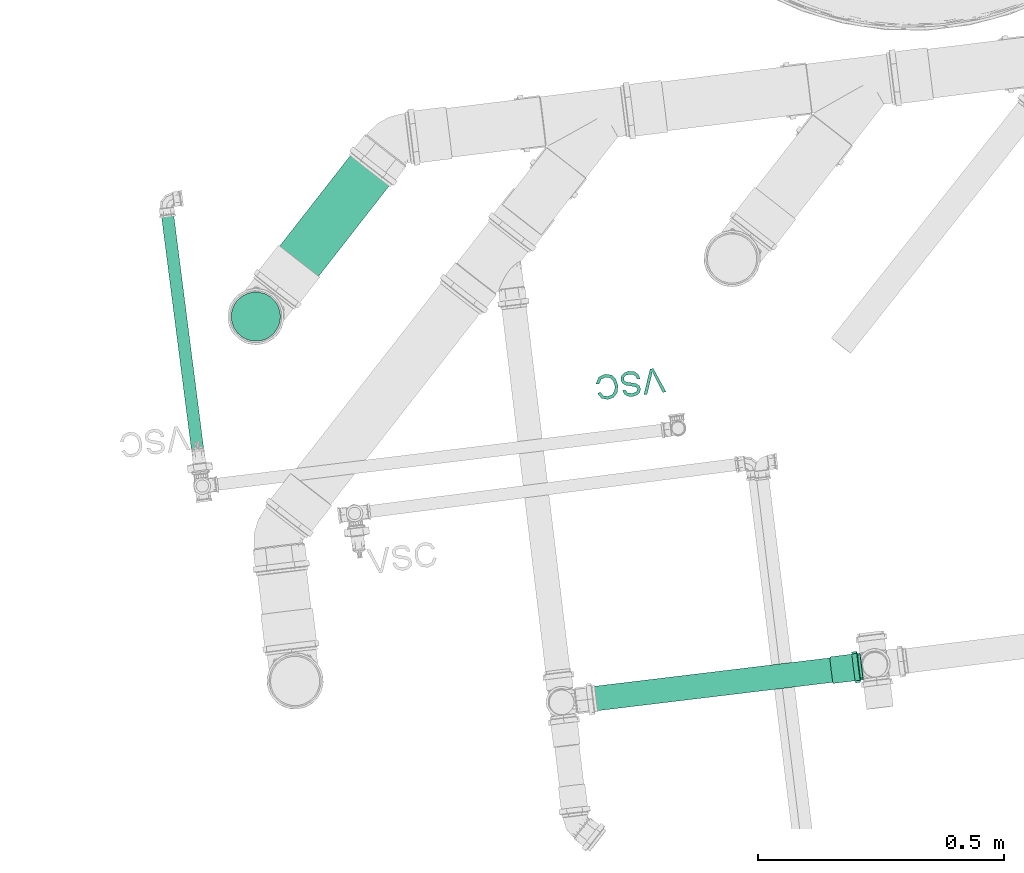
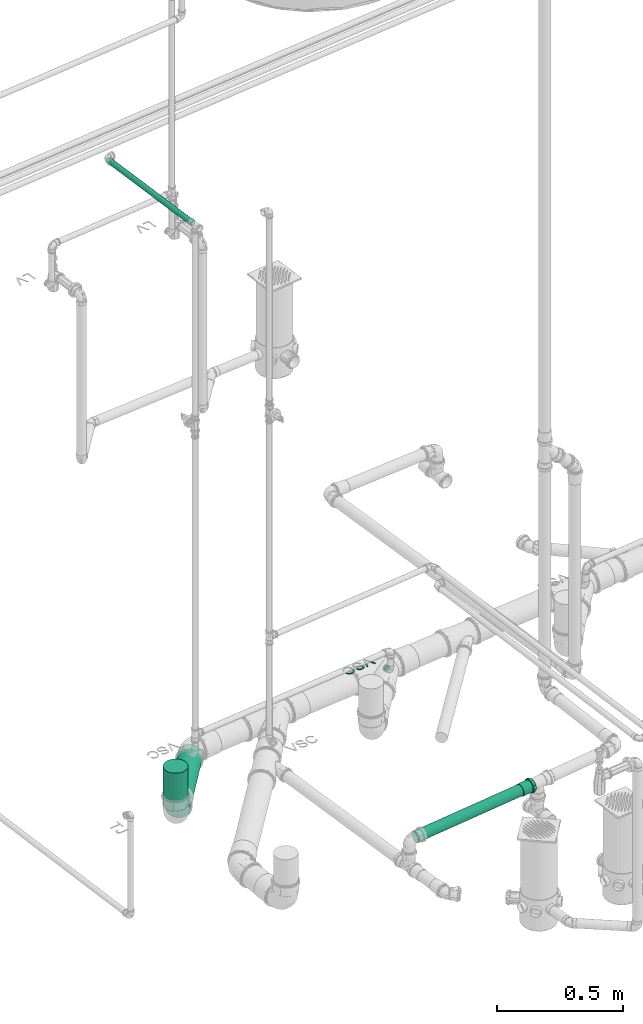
# One storey, part 17 of 97: 4 flow segments, 1 flow fitting, 1 flow terminal.
"""IFC2X3 building model written with IfcOpenShell, lengths in centimetres."""

from ifc_helpers import new_model, entity, si_unit, converted_unit, derived_unit, direction, frame, frame_2d, origin, origin_2d_with_axis, place, context, subcontext, project, spatial, polyline, circle, outline, extrude, faceted_brep, source, transform, mapped, material, material_list, type_object, type_shapes, element, save


model = new_model("IFC2X3")

# Units and contexts
model_context = context("Model", 3, precision=0.001, world=origin(), true_north=direction((6.12303176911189e-17, 1.0)))
body_context = subcontext(model_context, "Body", "Model", "MODEL_VIEW")
ifc_project = project(units=[si_unit("LENGTHUNIT", "METRE", prefix="CENTI"), si_unit("AREAUNIT", "SQUARE_METRE"), si_unit("VOLUMEUNIT", "CUBIC_METRE"), converted_unit("PLANEANGLEUNIT", "DEGREE", entity("IfcRatioMeasure", 0.0174532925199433), si_unit("PLANEANGLEUNIT", "RADIAN"), dimensions=[0, 0, 0, 0, 0, 0, 0]), si_unit("MASSUNIT", "GRAM", prefix="KILO"), derived_unit("MASSDENSITYUNIT", [(si_unit("MASSUNIT", "GRAM", prefix="KILO"), 1), (si_unit("LENGTHUNIT", "METRE"), -3)]), derived_unit("MOMENTOFINERTIAUNIT", [(si_unit("LENGTHUNIT", "METRE"), 4)]), si_unit("TIMEUNIT", "SECOND"), si_unit("FREQUENCYUNIT", "HERTZ"), si_unit("THERMODYNAMICTEMPERATUREUNIT", "DEGREE_CELSIUS"), derived_unit("THERMALTRANSMITTANCEUNIT", [(si_unit("MASSUNIT", "GRAM", prefix="KILO"), 1), (si_unit("THERMODYNAMICTEMPERATUREUNIT", "KELVIN"), -1), (si_unit("TIMEUNIT", "SECOND"), -3)]), derived_unit("VOLUMETRICFLOWRATEUNIT", [(si_unit("LENGTHUNIT", "METRE"), 3), (si_unit("TIMEUNIT", "SECOND"), -1)]), si_unit("ELECTRICCURRENTUNIT", "AMPERE"), si_unit("ELECTRICVOLTAGEUNIT", "VOLT"), si_unit("POWERUNIT", "WATT"), si_unit("FORCEUNIT", "NEWTON", prefix="KILO"), si_unit("ILLUMINANCEUNIT", "LUX"), si_unit("LUMINOUSFLUXUNIT", "LUMEN"), si_unit("LUMINOUSINTENSITYUNIT", "CANDELA"), derived_unit("USERDEFINED", [(si_unit("MASSUNIT", "GRAM", prefix="KILO"), -1), (si_unit("LENGTHUNIT", "METRE"), -2), (si_unit("TIMEUNIT", "SECOND"), 3), (si_unit("LUMINOUSFLUXUNIT", "LUMEN"), 1)]), derived_unit("LINEARVELOCITYUNIT", [(si_unit("LENGTHUNIT", "METRE"), 1), (si_unit("TIMEUNIT", "SECOND"), -1)]), si_unit("PRESSUREUNIT", "PASCAL"), derived_unit("USERDEFINED", [(si_unit("LENGTHUNIT", "METRE"), -2), (si_unit("MASSUNIT", "GRAM", prefix="KILO"), 1), (si_unit("TIMEUNIT", "SECOND"), -2)]), derived_unit("LINEARFORCEUNIT", [(si_unit("MASSUNIT", "GRAM", prefix="KILO"), 1), (si_unit("LENGTHUNIT", "METRE"), 1), (si_unit("TIMEUNIT", "SECOND"), -2), (si_unit("LENGTHUNIT", "METRE"), -1)]), derived_unit("PLANARFORCEUNIT", [(si_unit("MASSUNIT", "GRAM", prefix="KILO"), 1), (si_unit("LENGTHUNIT", "METRE"), 1), (si_unit("TIMEUNIT", "SECOND"), -2), (si_unit("LENGTHUNIT", "METRE"), -2)])], contexts=[model_context])

# Site, building, storey
site_placement = place(None, origin())
site = spatial("IfcSite", under=ifc_project, at=site_placement, Name="Default", CompositionType="ELEMENT")
building_placement = place(site_placement, origin())
building = spatial("IfcBuilding", under=site, at=building_placement, Name="HIDROSSANITÁRIO", CompositionType="ELEMENT")
storey_placement = place(building_placement, frame((0.0, 0.0, -260.0)))
storey = spatial("IfcBuildingStorey", under=building, at=storey_placement, Name="TÉRREO-HID", CompositionType="ELEMENT", Elevation=-260.0)

# Flow segments
pipe_segment_type_1 = type_object("IfcPipeSegmentType", Name="Tipos de tubos:Tubo Marrom - Água Fria - Soldável", PredefinedType="NOTDEFINED")
flow_segment_1_placement = place(storey_placement, origin())
element("IfcFlowSegment", 1, at=flow_segment_1_placement, inside=storey, type_object=pipe_segment_type_1, Name="Tipos de tubos:Tubo Marrom - Água Fria - Soldável", ObjectType="Tipos de tubos:Tubo Marrom - Água Fria - Soldável", context=body_context, shape_type="SweptSolid", body=[
    extrude(circle(Radius=1.25, at=origin_2d_with_axis()), frame((-1806.45183467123, 2940.30794817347, 277.384317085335), z_axis=(0.12718488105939, -0.991879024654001, 8.05067442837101e-05), x_axis=(-0.991879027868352, -0.127184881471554, 0.0)), (0.0, 0.0, 1.0), 55.2225000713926),
])
pipe_segment_type_2 = type_object("IfcPipeSegmentType", Name="Tipos de tubos:Tubo - Esgoto - Série Normal", PredefinedType="NOTDEFINED")
flow_segment_2_placement = place(storey_placement, origin())
element("IfcFlowSegment", 2, at=flow_segment_2_placement, inside=storey, type_object=pipe_segment_type_2, Name="Tipos de tubos:Tubo - Esgoto - Série Normal", ObjectType="Tipos de tubos:Tubo - Esgoto - Série Normal", context=body_context, shape_type="SweptSolid", body=[
    extrude(circle(Radius=5.0, at=frame_2d((0.0, -4.33146851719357e-13), x_axis=(1.0, 0.0))), frame((-1788.36069078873, 2918.3354187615, -28.4339768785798), z_axis=(0.0, 0.0, 1.0), x_axis=(-1.0, 0.0, 0.0)), (0.0, 0.0, 1.0), 18.43397687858),
])
flow_segment_3_placement = place(storey_placement, origin())
element("IfcFlowSegment", 3, at=flow_segment_3_placement, inside=storey, type_object=pipe_segment_type_2, Name="Tipos de tubos:Tubo - Esgoto - Série Normal", ObjectType="Tipos de tubos:Tubo - Esgoto - Série Normal", context=body_context, shape_type="SweptSolid", body=[
    extrude(circle(Radius=5.0, at=frame_2d((-2.66574468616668e-13, 3.46875511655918e-15), x_axis=(1.0, 0.0))), frame((-1784.69712056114, 2923.02733253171, -34.3265962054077), z_axis=(0.615404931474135, 0.788145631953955, 0.0101603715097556), x_axis=(-0.78818631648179, 0.615436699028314, 0.0)), (0.0, 0.0, 1.0), 36.769294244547),
])
flow_segment_4_placement = place(storey_placement, origin())
element("IfcFlowSegment", 4, at=flow_segment_4_placement, inside=storey, type_object=pipe_segment_type_2, Name="Tipos de tubos:Tubo - Esgoto - Série Normal", ObjectType="Tipos de tubos:Tubo - Esgoto - Série Normal", context=body_context, shape_type="SweptSolid", body=[
    extrude(circle(Radius=2.5, at=origin_2d_with_axis()), frame((-1723.26628427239, 2840.38123197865, -19.9761092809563), z_axis=(0.992662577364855, 0.119779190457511, 0.0165515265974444), x_axis=(-0.119795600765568, 0.992798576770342, 0.0)), (0.0, 0.0, 1.0), 58.141141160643),
])

# Flow terminal
ifc_material_1 = material(Name=".ID PONTOS DE CONSUMO")
ifc_material_2 = material(Name="<Unnamed>")
ifc_material_list_1 = material_list([ifc_material_1, ifc_material_2])
ifc_material_list_2 = material_list([ifc_material_1, ifc_material_1, ifc_material_1, ifc_material_2])
distribution_element_type = type_object("IfcDistributionElementType", Name="Pontos de Consumo :BACIA SANITARIA CAIXA ACOPLADA", material=ifc_material_list_2)
shared_shape_1 = source(origin(), body_context, "Body", "SweptSolid", [
    extrude(outline(polyline([(-0.291035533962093, -2.60978212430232), (0.357663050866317, -2.60978212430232), (2.27187569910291, 2.41303338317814), (1.59987792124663, 2.41303338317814), (0.258334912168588, -1.20569917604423), (-0.00899267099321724, -2.02117093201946), (-0.279999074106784, -1.20569917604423), (-1.61786326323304, 2.41303338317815), (-2.28986104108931, 2.41303338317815), (-0.291035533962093, -2.60978212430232)])), frame((-3.80140883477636, 8.38581599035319, 0.0), z_axis=(0.0, 0.0, 1.0), x_axis=(-1.0, 0.0, 0.0)), (0.0, 0.0, 1.0), 0.2),
    extrude(outline(polyline([(0.159986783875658, -2.14384430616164), (1.15649137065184, -2.14384430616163), (1.96068557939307, -1.63393256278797), (2.46863484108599, -0.612133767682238), (2.53870698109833, 0.35501055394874), (2.18730732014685, 1.12715089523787), (1.52572011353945, 1.54795570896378), (0.789276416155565, 1.5528298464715), (0.13430777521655, 1.10651277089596), (-0.471111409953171, 0.123091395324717), (-1.0874076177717, -0.768054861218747), (-1.56068636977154, -0.842013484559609), (-1.9855059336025, -0.428866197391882), (-1.94874467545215, 0.494808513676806), (-1.4949111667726, 1.29806637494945), (-0.777489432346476, 1.46486449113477), (-0.606740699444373, 2.06905231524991), (-1.430854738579, 2.04327069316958), (-2.11718460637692, 1.54911010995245), (-2.55960237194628, 0.64195615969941), (-2.6481064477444, -0.300227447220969), (-2.33838066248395, -1.04848451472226), (-1.71373428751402, -1.45120371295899), (-1.06523029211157, -1.45161416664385), (-0.470393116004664, -1.06476156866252), (0.0951992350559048, -0.201975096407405), (0.574519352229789, 0.612557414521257), (0.964937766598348, 0.945679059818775), (1.37031208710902, 0.9394324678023), (1.73780922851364, 0.690941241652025), (1.92586114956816, 0.197524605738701), (1.85777714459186, -0.464986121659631), (1.50727535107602, -1.14835302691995), (0.990539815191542, -1.51586299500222), (0.330735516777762, -1.5396564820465), (0.159986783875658, -2.14384430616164)])), frame((-8.44107816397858, 8.53201502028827, 0.0), z_axis=(0.0, 0.0, 1.0), x_axis=(-0.271957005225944, 0.9623094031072, 0.0)), (0.0, 0.0, 1.0), 0.2),
    extrude(outline(polyline([(-0.163864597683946, -1.7964904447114), (-0.337097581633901, -2.4213021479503), (1.13156474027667, -2.40853999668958), (2.16562908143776, -1.48721709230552), (2.53219172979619, -0.190439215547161), (2.08718308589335, 0.950570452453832), (1.05509329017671, 1.8489065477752), (-0.275927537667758, 2.27270776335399), (-1.46466906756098, 1.98187536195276), (-2.32904298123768, 1.08731397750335), (-2.61799066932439, -0.197577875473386), (-2.01807585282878, -1.36204183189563), (-1.57497165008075, -0.892746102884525), (-1.98665363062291, -0.0610798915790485), (-1.77280525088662, 0.795082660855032), (-1.04969465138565, 1.51204662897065), (-0.147902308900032, 1.63280778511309), (0.740549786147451, 1.30552643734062), (1.58306630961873, 0.601352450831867), (1.88727594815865, -0.254715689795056), (1.65286235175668, -1.11954933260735), (0.903279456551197, -1.7964904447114), (-0.163864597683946, -1.7964904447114)])), frame((-13.1807089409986, 8.45514997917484, 0.0), z_axis=(0.0, 0.0, -1.0), x_axis=(0.499291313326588, 0.866434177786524, 0.0)), (0.0, 0.0, -1.0), 0.2),
    extrude(circle(Radius=1.25, at=frame_2d((-6.58881963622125e-17, -2.01943071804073e-15), x_axis=(1.0, 0.0))), frame((0.0, 0.0, 0.0), z_axis=(0.0, 1.0, 0.0), x_axis=(1.0, 0.0, 0.0)), (0.0, 0.0, 1.0), 1.0),
])
type_shapes(distribution_element_type, [shared_shape_1])
flow_terminal_placement = place(storey_placement, frame((-1702.8887137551, 2897.30549195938, 20.0), z_axis=(0.0, 0.0, 1.0), x_axis=(0.992511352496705, 0.122152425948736, 0.0)))
element("IfcFlowTerminal", 5, at=flow_terminal_placement, inside=storey, type_object=distribution_element_type, material=ifc_material_list_1, Name="Pontos de Consumo :BACIA SANITARIA CAIXA ACOPLADA", ObjectType="Pontos de Consumo :BACIA SANITARIA CAIXA ACOPLADA", context=body_context, shape_type="MappedRepresentation", body=[
    mapped(shared_shape_1, transform((0.0, 0.0, 0.0), scale=1.0)),
])

# Flow fitting
ifc_material_3 = material(Name="PVC Branco")
pipe_fitting_type = type_object("IfcPipeFittingType", Name="Luva Simples para Conexão - Serie Normal - Esgoto - MEP - Tigre:Standard", PredefinedType="NOTDEFINED", material=ifc_material_3)
shared_shape_2 = source(origin(), body_context, "Body", "Brep", [
    faceted_brep([(1.65999999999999, 1.59, -2.75396078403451), (1.65999999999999, 2.24859956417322, -2.24859956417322), (1.65999999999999, 1.35999999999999, -2.35558909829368), (1.65999999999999, 0.703987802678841, -2.62731824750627), (1.65999999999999, 0.82304456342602, -3.07164412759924), (1.65999999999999, 1.9233304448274, -1.92333044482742), (1.65999999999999, 2.75396078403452, -1.59), (1.65999999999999, 2.35558909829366, -1.36000000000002), (1.65999999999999, 2.62731824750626, -0.703987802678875), (1.65999999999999, 3.07164412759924, -0.823044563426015), (1.65999999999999, 2.72, 0.0), (1.65999999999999, 3.18, 0.0), (1.65999999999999, 2.62731824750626, 0.703987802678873), (1.65999999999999, 3.07164412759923, 0.823044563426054), (1.65999999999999, 2.35558909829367, 1.36000000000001), (1.65999999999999, 2.7539607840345, 1.59000000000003), (1.65999999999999, 1.9233304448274, 1.92333044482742), (1.65999999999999, 2.24859956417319, 2.24859956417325), (1.65999999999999, 1.35999999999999, 2.35558909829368), (1.65999999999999, 1.58999999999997, 2.75396078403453), (1.65999999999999, 0.703987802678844, 2.62731824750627), (1.65999999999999, 0.823044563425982, 3.07164412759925), (1.65999999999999, 0.0, 2.72), (1.65999999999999, 0.0, 3.18), (1.65999999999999, -0.703987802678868, 2.62731824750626), (1.65999999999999, -0.823044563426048, 3.07164412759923), (1.65999999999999, -1.36000000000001, 2.35558909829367), (1.65999999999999, -1.59000000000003, 2.7539607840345), (1.65999999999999, -1.92333044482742, 1.9233304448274), (1.65999999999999, -2.24859956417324, 2.2485995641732), (1.65999999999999, -2.35558909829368, 1.35999999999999), (1.65999999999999, -2.75396078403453, 1.58999999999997), (1.65999999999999, -3.07164412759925, 0.823044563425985), (1.65999999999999, -2.62731824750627, 0.703987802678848), (1.65999999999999, -3.18, 0.0), (1.65999999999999, -2.72, 0.0), (1.65999999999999, -3.07164412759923, -0.823044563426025), (1.65999999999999, -2.62731824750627, -0.703987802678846), (1.65999999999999, -2.75396078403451, -1.59000000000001), (1.65999999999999, -2.35558909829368, -1.35999999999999), (1.65999999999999, -2.24859956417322, -2.24859956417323), (1.65999999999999, -1.92333044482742, -1.9233304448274), (1.65999999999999, -1.58999999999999, -2.75396078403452), (1.65999999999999, -1.36000000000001, -2.35558909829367), (1.65999999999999, -0.823044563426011, -3.07164412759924), (1.65999999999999, -0.70398780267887, -2.62731824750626), (1.65999999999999, 0.0, -3.18), (1.65999999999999, 0.0, -2.72), (0.650000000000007, -1.07081089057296, 2.94292196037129), (0.650000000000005, -2.43590738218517, 2.04420038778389), (0.650000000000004, -2.7120498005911, 1.56595386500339), (0.650000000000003, -2.98819221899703, 1.08770734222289), (0.650000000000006, -1.58976972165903, 2.75409372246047), (0.650000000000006, -2.0128385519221, 2.39914705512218), (0.650000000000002, -3.08409610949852, 0.54385367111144), (0.650000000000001, -3.18, 0.0), (0.650000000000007, -0.551852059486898, 3.13175019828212), (0.650000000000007, 0.552637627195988, 3.13161167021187), (0.650000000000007, 0.000392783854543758, 3.13168093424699), (0.650000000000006, 2.01344030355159, 2.39864206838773), (0.650000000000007, 1.07154907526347, 2.94265325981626), (0.650000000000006, 1.59046052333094, 2.75369484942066), (0.650000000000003, 2.98846497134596, 1.08695773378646), (0.650000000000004, 2.7124425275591, 1.56527351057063), (0.650000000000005, 2.43642008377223, 2.0435892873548), (0.650000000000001, 3.18, 0.0), (0.649999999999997, 2.43642008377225, -2.04358928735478), (0.649999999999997, 2.71244252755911, -1.5652735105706), (0.649999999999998, 2.98846497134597, -1.08695773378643), (0.649999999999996, 1.59046052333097, -2.75369484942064), (0.649999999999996, 2.01344030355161, -2.39864206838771), (0.649999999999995, 1.07154907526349, -2.94265325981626), (0.649999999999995, 0.552637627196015, -3.13161167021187), (0.649999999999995, -0.551852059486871, -3.13175019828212), (0.649999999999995, 0.000392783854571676, -3.13168093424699), (0.649999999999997, -2.01283855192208, -2.3991470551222), (0.649999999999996, -1.58976972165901, -2.75409372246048), (0.649999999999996, -1.07081089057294, -2.9429219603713), (0.649999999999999, -2.98819221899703, -1.08770734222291), (0.649999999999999, -2.71204980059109, -1.56595386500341), (0.649999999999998, -2.43590738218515, -2.04420038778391), (0.65, -3.08409610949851, -0.543853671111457), (0.64999999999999, -3.06961738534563, -0.625959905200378), (6.20000000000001, 1.36, -2.35558909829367), (6.20000000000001, 1.92333044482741, -1.92333044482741), (6.20000000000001, 1.24999999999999, -2.1650635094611), (6.20000000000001, 0.647047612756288, -2.41481456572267), (6.20000000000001, 0.70398780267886, -2.62731824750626), (6.20000000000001, 1.76776695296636, -1.76776695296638), (6.20000000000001, 2.35558909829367, -1.36), (6.20000000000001, 2.16506350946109, -1.25000000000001), (6.20000000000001, 2.41481456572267, -0.647047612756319), (6.20000000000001, 2.62731824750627, -0.703987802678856), (6.20000000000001, 2.5, 0.0), (6.20000000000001, 2.72, 0.0), (6.20000000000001, 2.41481456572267, 0.647047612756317), (6.20000000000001, 2.62731824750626, 0.703987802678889), (6.20000000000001, 2.16506350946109, 1.25000000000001), (6.20000000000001, 2.35558909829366, 1.36000000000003), (6.20000000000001, 1.76776695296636, 1.76776695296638), (6.20000000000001, 1.92333044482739, 1.92333044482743), (6.20000000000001, 1.24999999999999, 2.1650635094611), (6.20000000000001, 1.35999999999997, 2.35558909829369), (6.20000000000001, 0.64704761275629, 2.41481456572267), (6.20000000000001, 0.703987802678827, 2.62731824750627), (6.20000000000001, 0.0, 2.5), (6.20000000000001, 0.0, 2.72), (6.20000000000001, -0.647047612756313, 2.41481456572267), (6.20000000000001, -0.703987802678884, 2.62731824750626), (6.20000000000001, -1.25000000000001, 2.16506350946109), (6.20000000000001, -1.36000000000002, 2.35558909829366), (6.20000000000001, -1.76776695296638, 1.76776695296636), (6.20000000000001, -1.92333044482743, 1.92333044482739), (6.20000000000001, -2.1650635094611, 1.24999999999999), (6.20000000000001, -2.35558909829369, 1.35999999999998), (6.20000000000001, -2.62731824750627, 0.703987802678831), (6.20000000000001, -2.41481456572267, 0.647047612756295), (6.20000000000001, -2.72, 0.0), (6.20000000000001, -2.5, 0.0), (6.20000000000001, -2.62731824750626, -0.703987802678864), (6.20000000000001, -2.41481456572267, -0.647047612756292), (6.20000000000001, -2.35558909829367, -1.36000000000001), (6.20000000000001, -2.1650635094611, -1.24999999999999), (6.20000000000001, -1.9233304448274, -1.92333044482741), (6.20000000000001, -1.76776695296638, -1.76776695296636), (6.20000000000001, -1.36, -2.35558909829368), (6.20000000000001, -1.25000000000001, -2.16506350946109), (6.20000000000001, -0.703987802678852, -2.62731824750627), (6.20000000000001, -0.647047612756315, -2.41481456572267), (6.20000000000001, 0.0, -2.72), (6.20000000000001, 0.0, -2.5), (0.0, 1.24999999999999, -2.1650635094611), (0.0, 1.92333044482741, -1.92333044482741), (0.0, 1.36, -2.35558909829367), (0.0, 0.647047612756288, -2.41481456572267), (0.0, 1.76776695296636, -1.76776695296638), (0.0, 2.35558909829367, -1.36), (0.0, 2.16506350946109, -1.25000000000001), (0.0, 2.41481456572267, -0.647047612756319), (0.0, 2.62731824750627, -0.703987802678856), (0.0, 2.5, 0.0), (0.0, 2.72, 0.0), (0.0, 2.41481456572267, 0.647047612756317), (0.0, 2.62731824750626, 0.703987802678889), (0.0, 2.16506350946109, 1.25000000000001), (0.0, 2.35558909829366, 1.36000000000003), (0.0, 1.76776695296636, 1.76776695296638), (0.0, 1.92333044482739, 1.92333044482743), (0.0, 1.24999999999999, 2.1650635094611), (0.0, 1.35999999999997, 2.35558909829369), (0.0, 0.64704761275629, 2.41481456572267), (0.0, 0.703987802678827, 2.62731824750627), (0.0, 0.0, 2.5), (0.0, 0.0, 2.72), (0.0, -0.647047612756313, 2.41481456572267), (0.0, -0.703987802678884, 2.62731824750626), (0.0, -1.25000000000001, 2.16506350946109), (0.0, -1.36000000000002, 2.35558909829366), (0.0, -1.76776695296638, 1.76776695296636), (0.0, -1.92333044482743, 1.92333044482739), (0.0, -2.1650635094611, 1.24999999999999), (0.0, -2.35558909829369, 1.35999999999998), (0.0, -2.62731824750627, 0.703987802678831), (0.0, -2.41481456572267, 0.647047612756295), (0.0, -2.72, 0.0), (0.0, -2.5, 0.0), (0.0, -2.62731824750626, -0.703987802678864), (0.0, -2.41481456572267, -0.647047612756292), (0.0, -2.35558909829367, -1.36000000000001), (0.0, -2.1650635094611, -1.24999999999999), (0.0, -1.9233304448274, -1.92333044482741), (0.0, -1.76776695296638, -1.76776695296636), (0.0, -1.36, -2.35558909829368), (0.0, -1.25000000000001, -2.16506350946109), (0.0, -0.703987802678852, -2.62731824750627), (0.0, -0.647047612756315, -2.41481456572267), (0.0, 0.0, -2.72), (0.0, 0.0, -2.5), (0.0, 0.70398780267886, -2.62731824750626), (0.53, -2.63796899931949, 0.465183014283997), (0.529999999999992, -2.62558467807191, 0.535412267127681), (0.530000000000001, -2.55593799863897, 0.930366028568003), (0.530000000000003, -2.08354342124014, 1.74849844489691), (0.530000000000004, -1.72167322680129, 2.05210062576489), (0.530000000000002, -2.31974070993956, 1.33943223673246), (0.530000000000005, -0.472024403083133, 2.67872972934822), (0.530000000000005, -0.915913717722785, 2.51721626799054), (0.53, -2.72, 0.0), (0.530000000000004, -1.35980303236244, 2.35570280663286), (0.530000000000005, 0.916545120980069, 2.51698643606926), (0.530000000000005, 1.36039390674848, 2.35536163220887), (0.530000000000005, 0.47269633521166, 2.67861123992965), (0.530000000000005, 1.72218793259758, 2.05166868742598), (0.530000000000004, 2.08398195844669, 1.7479757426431), (0.530000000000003, 2.5561712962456, 0.929724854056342), (0.53, 2.72, 0.0), (0.530000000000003, 2.32007662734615, 1.33885029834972), (0.530000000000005, 0.000335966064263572, 2.67867048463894), (0.529999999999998, 2.55617129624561, -0.929724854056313), (0.529999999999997, 2.08398195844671, -1.74797574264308), (0.529999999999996, 1.7221879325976, -2.05166868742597), (0.529999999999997, 2.32007662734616, -1.3388502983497), (0.529999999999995, 0.472696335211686, -2.67861123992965), (0.529999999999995, 0.916545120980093, -2.51698643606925), (0.529999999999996, 1.3603939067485, -2.35536163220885), (0.529999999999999, -2.63796899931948, -0.465183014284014), (0.529999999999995, -0.915913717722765, -2.51721626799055), (0.529999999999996, -1.35980303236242, -2.35570280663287), (0.529999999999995, -0.47202440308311, -2.67872972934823), (0.529999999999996, -1.72167322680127, -2.0521006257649), (0.529999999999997, -2.08354342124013, -1.74849844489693), (0.529999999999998, -2.55593799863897, -0.930366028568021), (0.529999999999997, -2.31974070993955, -1.33943223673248), (0.529999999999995, 0.000335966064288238, -2.67867048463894), (3.9, -2.5, 0.0), (3.9, 2.5, 0.0)], [[[0, 1, 2]], [[0, 2, 3]], [[3, 4, 0]], [[2, 1, 5]], [[6, 5, 1]], [[7, 5, 6]], [[8, 7, 6]], [[8, 6, 9]], [[8, 9, 10]], [[10, 9, 11]], [[12, 10, 11]], [[12, 11, 13]], [[14, 12, 13]], [[14, 13, 15]], [[16, 14, 15]], [[15, 17, 16]], [[17, 18, 16]], [[17, 19, 18]], [[18, 19, 20]], [[21, 20, 19]], [[20, 21, 22]], [[22, 21, 23]], [[22, 23, 24]], [[24, 23, 25]], [[24, 25, 26]], [[27, 26, 25]], [[27, 28, 26]], [[28, 27, 29]], [[30, 28, 29]], [[31, 30, 29]], [[32, 30, 31]], [[33, 30, 32]], [[33, 32, 34]], [[35, 33, 34]], [[36, 35, 34]], [[36, 37, 35]], [[37, 36, 38]], [[39, 37, 38]], [[39, 38, 40]], [[39, 40, 41]], [[40, 42, 41]], [[41, 42, 43]], [[43, 42, 44]], [[44, 45, 43]], [[46, 45, 44]], [[4, 47, 46]], [[46, 47, 45]], [[4, 3, 47]], [[48, 27, 25]], [[31, 29, 49]], [[31, 49, 50, 51]], [[52, 53, 27]], [[32, 51, 54]], [[54, 55, 34]], [[54, 34, 32]], [[25, 56, 48]], [[49, 29, 53]], [[23, 57, 58, 56]], [[59, 19, 17]], [[27, 53, 29]], [[48, 52, 27]], [[31, 51, 32]], [[57, 23, 21]], [[60, 19, 61]], [[15, 62, 63, 64]], [[19, 60, 21]], [[15, 13, 62]], [[17, 64, 59]], [[57, 21, 60]], [[23, 56, 25]], [[15, 64, 17]], [[13, 65, 62]], [[13, 11, 65]], [[59, 61, 19]], [[65, 11, 9]], [[6, 1, 66]], [[6, 66, 67, 68]], [[69, 70, 0]], [[68, 65, 9]], [[71, 69, 0]], [[71, 0, 4]], [[4, 72, 71]], [[66, 1, 70]], [[46, 73, 74, 72]], [[75, 76, 42]], [[0, 70, 1]], [[75, 42, 40]], [[6, 68, 9]], [[73, 46, 44]], [[77, 42, 76]], [[38, 78, 79, 80]], [[42, 77, 44]], [[38, 36, 78]], [[40, 80, 75]], [[73, 44, 77]], [[46, 72, 4]], [[38, 80, 40]], [[36, 81, 82, 78]], [[55, 81, 34]], [[34, 81, 36]], [[83, 84, 85]], [[83, 85, 86]], [[86, 87, 83]], [[85, 84, 88]], [[89, 88, 84]], [[88, 89, 90]], [[90, 89, 91]], [[92, 91, 89]], [[92, 93, 91]], [[93, 92, 94]], [[95, 93, 94]], [[94, 96, 95]], [[95, 96, 97]], [[98, 97, 96]], [[97, 98, 99]], [[99, 98, 100]], [[101, 99, 100]], [[100, 102, 101]], [[101, 102, 103]], [[104, 103, 102]], [[103, 104, 105]], [[105, 104, 106]], [[105, 106, 107]], [[107, 106, 108]], [[107, 108, 109]], [[110, 109, 108]], [[110, 111, 109]], [[111, 110, 112]], [[112, 113, 111]], [[114, 113, 112]], [[113, 114, 115]], [[115, 116, 113]], [[117, 116, 115]], [[117, 118, 116]], [[119, 118, 117]], [[119, 120, 118]], [[120, 119, 121]], [[121, 122, 120]], [[122, 121, 123]], [[122, 123, 124]], [[123, 125, 124]], [[124, 125, 126]], [[126, 125, 127]], [[127, 128, 126]], [[129, 128, 127]], [[87, 130, 129]], [[129, 130, 128]], [[87, 86, 130]], [[131, 132, 133]], [[134, 131, 133]], [[135, 132, 131]], [[132, 135, 136]], [[137, 136, 135]], [[138, 136, 137]], [[136, 138, 139]], [[138, 140, 139]], [[141, 139, 140]], [[141, 140, 142]], [[142, 143, 141]], [[144, 143, 142]], [[143, 144, 145]], [[146, 145, 144]], [[147, 145, 146]], [[147, 146, 148]], [[148, 149, 147]], [[150, 149, 148]], [[149, 150, 151]], [[152, 151, 150]], [[153, 151, 152]], [[154, 153, 152]], [[155, 153, 154]], [[156, 155, 154]], [[155, 156, 157]], [[156, 158, 157]], [[159, 157, 158]], [[158, 160, 159]], [[159, 160, 161]], [[162, 161, 160]], [[160, 163, 162]], [[162, 163, 164]], [[163, 165, 164]], [[164, 165, 166]], [[165, 167, 166]], [[168, 166, 167]], [[167, 169, 168]], [[170, 168, 169]], [[171, 170, 169]], [[171, 172, 170]], [[173, 172, 171]], [[174, 172, 173]], [[173, 175, 174]], [[174, 175, 176]], [[175, 177, 176]], [[177, 134, 178]], [[176, 177, 178]], [[133, 178, 134]], [[162, 179, 180, 181]], [[159, 182, 183]], [[182, 161, 181, 184]], [[185, 155, 186]], [[161, 162, 181]], [[187, 179, 164]], [[183, 188, 157]], [[183, 157, 159]], [[161, 182, 159]], [[189, 190, 149]], [[189, 149, 151]], [[157, 188, 186]], [[157, 186, 155]], [[153, 155, 185]], [[164, 179, 162]], [[151, 191, 189]], [[147, 192, 193]], [[143, 194, 195]], [[194, 145, 193, 196]], [[143, 195, 141]], [[10, 12, 96, 94]], [[149, 192, 147]], [[153, 185, 197, 191]], [[153, 191, 151]], [[145, 147, 193]], [[190, 192, 149]], [[145, 194, 143]], [[139, 195, 198]], [[132, 199, 200]], [[199, 136, 198, 201]], [[202, 178, 203]], [[136, 139, 198]], [[139, 141, 195]], [[92, 8, 10, 94]], [[133, 203, 178]], [[200, 204, 133]], [[136, 199, 132]], [[205, 164, 166]], [[206, 207, 172]], [[133, 204, 203]], [[206, 172, 174]], [[176, 178, 202]], [[200, 133, 132]], [[174, 208, 206]], [[170, 209, 210]], [[166, 211, 205]], [[211, 168, 210, 212]], [[168, 211, 166]], [[172, 209, 170]], [[176, 202, 213, 208]], [[176, 208, 174]], [[168, 170, 210]], [[207, 209, 172]], [[205, 187, 164]], [[116, 118, 214, 165, 163]], [[156, 109, 111, 158]], [[111, 113, 160, 158]], [[113, 116, 163, 160]], [[107, 109, 156, 154]], [[154, 152, 105, 107]], [[103, 105, 152, 150]], [[103, 150, 148, 101]], [[142, 95, 97, 144]], [[97, 99, 146, 144]], [[99, 101, 148, 146]], [[93, 95, 142, 140, 215]], [[215, 140, 138, 91, 93]], [[135, 131, 85, 88]], [[90, 91, 138, 137]], [[90, 137, 135, 88]], [[86, 85, 131, 134]], [[134, 177, 130, 86]], [[128, 130, 177, 175]], [[128, 175, 173, 126]], [[167, 120, 122, 169]], [[122, 124, 171, 169]], [[124, 126, 173, 171]], [[118, 120, 167, 165, 214]], [[211, 78, 82, 81, 55, 187, 205]], [[79, 78, 211, 212, 210, 80]], [[75, 80, 210, 209, 207, 76]], [[207, 206, 208, 73, 77, 76]], [[213, 202, 72, 74, 73, 208]], [[203, 204, 69, 71, 72, 202]], [[198, 195, 65, 68]], [[199, 201, 198, 68, 67, 66]], [[204, 200, 199, 66, 70, 69]], [[195, 194, 62, 65]], [[197, 185, 56, 58, 57, 191]], [[63, 62, 194, 196, 193, 64]], [[57, 60, 61, 190, 189, 191]], [[193, 192, 190, 61, 59, 64]], [[48, 56, 185, 186, 188, 52]], [[187, 55, 54, 51, 181, 180, 179]], [[182, 184, 181, 51, 50, 49]], [[188, 183, 182, 49, 53, 52]], [[30, 33, 115, 114]], [[117, 115, 33, 35]], [[26, 28, 112, 110]], [[114, 112, 28, 30]], [[24, 26, 110, 108]], [[108, 106, 22, 24]], [[18, 20, 104, 102]], [[100, 16, 18, 102]], [[12, 14, 98, 96]], [[100, 98, 14, 16]], [[104, 20, 22, 106]], [[89, 7, 8, 92]], [[83, 87, 3, 2]], [[7, 89, 84, 5]], [[83, 2, 5, 84]], [[87, 129, 47, 3]], [[43, 45, 127, 125]], [[123, 41, 43, 125]], [[37, 39, 121, 119]], [[123, 121, 39, 41]], [[35, 37, 119, 117]], [[127, 45, 47, 129]]]),
])
type_shapes(pipe_fitting_type, [shared_shape_2])
flow_fitting_placement = place(storey_placement, frame((-1665.42276383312, 2847.36133106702, -19.011185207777), z_axis=(-0.123103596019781, 0.992393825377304, 0.0), x_axis=(-0.99219541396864, -0.123078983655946, -0.0199956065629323)))
element("IfcFlowFitting", 6, at=flow_fitting_placement, inside=storey, type_object=pipe_fitting_type, material=ifc_material_3, Name="Luva Simples para Conexão - Serie Normal - Esgoto - MEP - Tigre:Standard", ObjectType="Luva Simples para Conexão - Serie Normal - Esgoto - MEP - Tigre:Standard", context=body_context, shape_type="MappedRepresentation", body=[
    mapped(shared_shape_2, transform((0.0, 0.0, 0.0), scale=1.0)),
])

save(model, "model.ifc")
